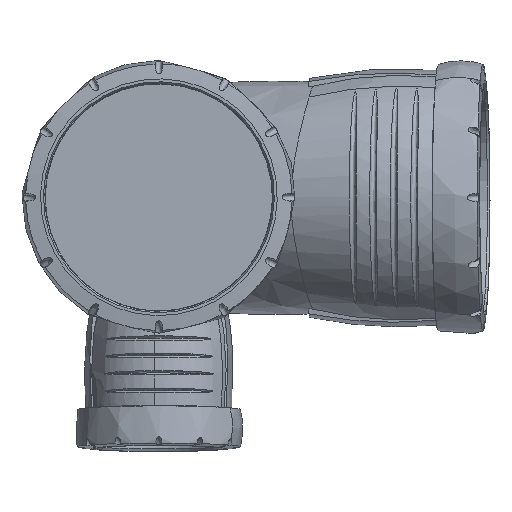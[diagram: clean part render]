
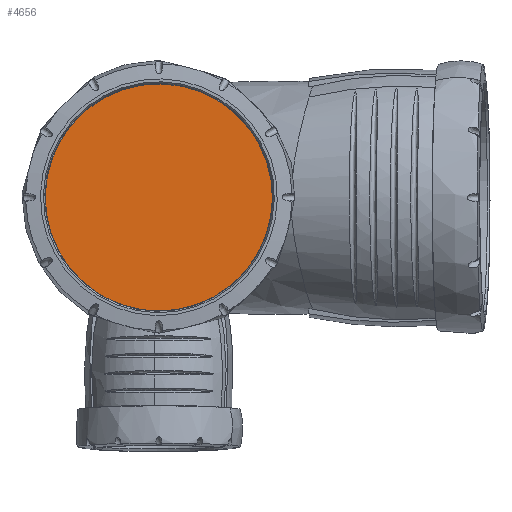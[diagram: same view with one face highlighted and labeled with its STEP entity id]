
A CAD part, top view. The second image highlights one B-rep face of the part: STEP entity #4656.
In plain terms, the highlighted planar face has unit normal (0, 0, 1).
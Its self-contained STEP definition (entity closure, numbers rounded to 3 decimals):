
#204=PLANE('',#4961);
#1035=FACE_OUTER_BOUND('',#1317,.T.);
#1317=EDGE_LOOP('',(#3733,#3734));
#1547=CIRCLE('',#4954,45.45);
#1548=CIRCLE('',#4956,45.45);
#1927=VERTEX_POINT('',#13035);
#1928=VERTEX_POINT('',#13036);
#2557=EDGE_CURVE('',#1927,#1928,#1547,.T.);
#2560=EDGE_CURVE('',#1928,#1927,#1548,.T.);
#3733=ORIENTED_EDGE('',*,*,#2560,.F.);
#3734=ORIENTED_EDGE('',*,*,#2557,.F.);
#4656=ADVANCED_FACE('',(#1035),#204,.T.);
#4954=AXIS2_PLACEMENT_3D('',#13037,#5479,#5480);
#4956=AXIS2_PLACEMENT_3D('',#13041,#5485,#5486);
#4961=AXIS2_PLACEMENT_3D('',#13050,#5497,#5498);
#5479=DIRECTION('center_axis',(0.,0.,-1.));
#5480=DIRECTION('ref_axis',(-0.479,0.878,0.));
#5485=DIRECTION('center_axis',(0.,0.,-1.));
#5486=DIRECTION('ref_axis',(0.479,-0.878,0.));
#5497=DIRECTION('center_axis',(0.,0.,1.));
#5498=DIRECTION('ref_axis',(-1.,0.,0.));
#13035=CARTESIAN_POINT('',(-21.79,39.886,248.));
#13036=CARTESIAN_POINT('',(21.79,-39.886,248.));
#13037=CARTESIAN_POINT('Origin',(-0.004,-0.002,
248.));
#13041=CARTESIAN_POINT('Origin',(0.004,0.002,
248.));
#13050=CARTESIAN_POINT('Origin',(46.401,46.785,248.));
